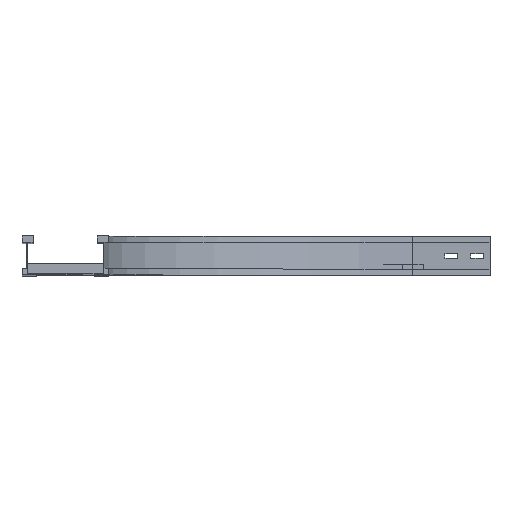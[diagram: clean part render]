
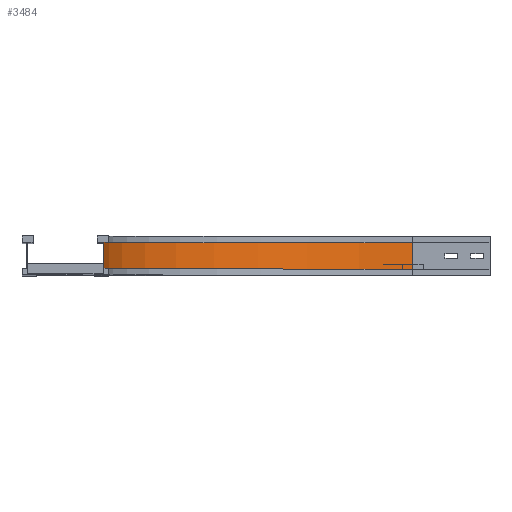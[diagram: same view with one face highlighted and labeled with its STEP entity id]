
A CAD part, top view. The second image highlights one B-rep face of the part: STEP entity #3484.
In plain terms, the highlighted cylindrical face has radius 600 mm (diameter 1200 mm), a partial arc.
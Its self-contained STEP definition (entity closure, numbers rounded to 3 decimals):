
#62 = LINE ( 'NONE', #2030, #3274 ) ;
#259 = CARTESIAN_POINT ( 'NONE',  ( 591., 63., -750. ) ) ;
#359 = ORIENTED_EDGE ( 'NONE', *, *, #2330, .T. ) ;
#400 = CIRCLE ( 'NONE', #2806, 600. ) ;
#487 = FACE_OUTER_BOUND ( 'NONE', #1884, .T. ) ;
#543 = ORIENTED_EDGE ( 'NONE', *, *, #752, .F. ) ;
#559 = DIRECTION ( 'NONE',  ( 0., -1., 0. ) ) ;
#583 = CIRCLE ( 'NONE', #1344, 600. ) ;
#679 = CARTESIAN_POINT ( 'NONE',  ( 591., 12., -750. ) ) ;
#706 = EDGE_CURVE ( 'NONE', #2281, #1860, #400, .T. ) ;
#752 = EDGE_CURVE ( 'NONE', #2860, #2281, #62, .T. ) ;
#757 = EDGE_CURVE ( 'NONE', #2860, #1311, #583, .T. ) ;
#841 = DIRECTION ( 'NONE',  ( -1., 0., 0. ) ) ;
#875 = DIRECTION ( 'NONE',  ( -1., 0., 0. ) ) ;
#990 = DIRECTION ( 'NONE',  ( 0., 1., 0. ) ) ;
#1033 = CARTESIAN_POINT ( 'NONE',  ( 591., 0., -150. ) ) ;
#1075 = DIRECTION ( 'NONE',  ( 0., 0., -1. ) ) ;
#1233 = ORIENTED_EDGE ( 'NONE', *, *, #757, .T. ) ;
#1311 = VERTEX_POINT ( 'NONE', #1607 ) ;
#1344 = AXIS2_PLACEMENT_3D ( 'NONE', #3356, #559, #841 ) ;
#1582 = AXIS2_PLACEMENT_3D ( 'NONE', #1033, #2145, #1075 ) ;
#1607 = CARTESIAN_POINT ( 'NONE',  ( 591., 12., -750. ) ) ;
#1680 = CARTESIAN_POINT ( 'NONE',  ( 591., 63., -150. ) ) ;
#1711 = CARTESIAN_POINT ( 'NONE',  ( -9., 63., -150. ) ) ;
#1860 = VERTEX_POINT ( 'NONE', #259 ) ;
#1884 = EDGE_LOOP ( 'NONE', ( #1888, #543, #1233, #359 ) ) ;
#1888 = ORIENTED_EDGE ( 'NONE', *, *, #706, .F. ) ;
#2030 = CARTESIAN_POINT ( 'NONE',  ( -9., 12., -150. ) ) ;
#2145 = DIRECTION ( 'NONE',  ( 0., -1., 0. ) ) ;
#2281 = VERTEX_POINT ( 'NONE', #1711 ) ;
#2287 = DIRECTION ( 'NONE',  ( 0., -1., 0. ) ) ;
#2330 = EDGE_CURVE ( 'NONE', #1311, #1860, #2332, .T. ) ;
#2332 = LINE ( 'NONE', #679, #3158 ) ;
#2450 = CYLINDRICAL_SURFACE ( 'NONE', #1582, 600. ) ;
#2796 = DIRECTION ( 'NONE',  ( 0., 1., 0. ) ) ;
#2806 = AXIS2_PLACEMENT_3D ( 'NONE', #1680, #2287, #875 ) ;
#2860 = VERTEX_POINT ( 'NONE', #3279 ) ;
#3158 = VECTOR ( 'NONE', #990, 1000. ) ;
#3274 = VECTOR ( 'NONE', #2796, 1000. ) ;
#3279 = CARTESIAN_POINT ( 'NONE',  ( -9., 12., -150. ) ) ;
#3356 = CARTESIAN_POINT ( 'NONE',  ( 591., 12., -150. ) ) ;
#3484 = ADVANCED_FACE ( 'NONE', ( #487 ), #2450, .F. ) ;
